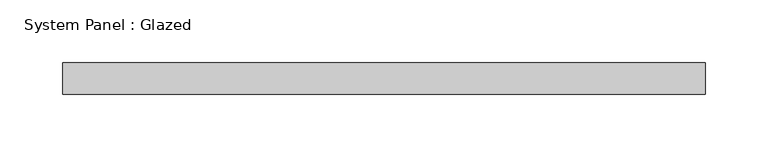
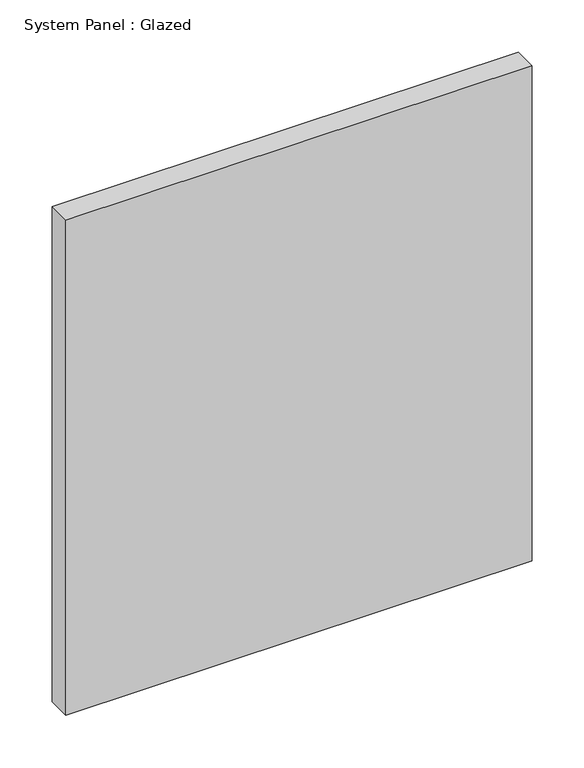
"""IFC4 building model written with IfcOpenShell, lengths in millimetres: plate geometry, System Panel : Glazed."""

from ifc_helpers import new_model, si_unit, origin, origin_with_axes, place, context, project, spatial, polyline, outline, extrude, source, transform, mapped, element, save


def system_panel_glazed_bf223ca8(model_context):
    return source(origin(), model_context, "Body", "SweptSolid", [
        extrude(outline(polyline([(257.175, -44.45), (-257.175, -44.45), (-257.175, -19.05), (257.175, -19.05), (257.175, -44.45)])), origin_with_axes(), (0.0, 0.0, 1.0), 577.85),
    ])


if __name__ == "__main__":
    model = new_model("IFC4")
    model_context = context("Model", 3, world=origin())
    ifc_project = project(units=[si_unit("LENGTHUNIT", "METRE", prefix="MILLI")], contexts=[model_context])
    site = spatial("IfcSite", under=ifc_project)
    building = spatial("IfcBuilding", under=site)
    placement = place(None, origin())
    system_panel_glazed_shape = system_panel_glazed_bf223ca8(model_context)
    element("IfcPlate", 1, ObjectType="System Panel : Glazed", at=placement, inside=building, context=model_context, shape_type="MappedRepresentation", body=[
        mapped(system_panel_glazed_shape, transform((0.0, 0.0, 0.0), x_axis=(1.0, 0.0, 0.0), y_axis=(0.0, 1.0, 0.0), z_axis=(0.0, 0.0, 1.0))),
    ])
    save(model, "model.ifc")
